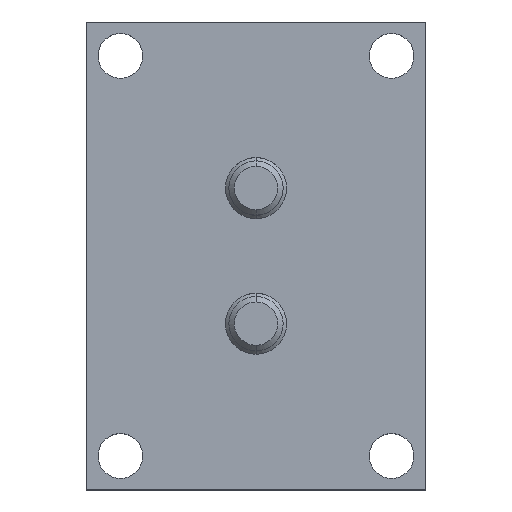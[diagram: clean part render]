
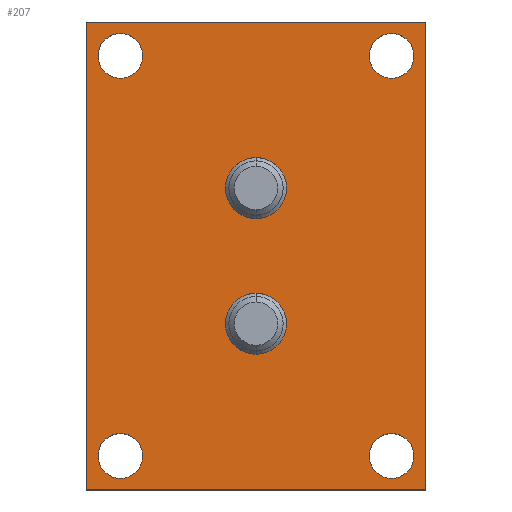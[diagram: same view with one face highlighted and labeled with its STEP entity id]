
A CAD part, top view. The second image highlights one B-rep face of the part: STEP entity #207.
In plain terms, the highlighted planar face has unit normal (0, 0, 1).
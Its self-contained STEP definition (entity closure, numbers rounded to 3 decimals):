
#101=FACE_BOUND('',#331,.T.);
#102=FACE_BOUND('',#332,.T.);
#103=FACE_BOUND('',#333,.T.);
#104=FACE_BOUND('',#334,.T.);
#105=FACE_BOUND('',#335,.T.);
#106=FACE_BOUND('',#336,.T.);
#107=FACE_BOUND('',#337,.T.);
#148=CIRCLE('',#975,3.3);
#150=CIRCLE('',#978,3.3);
#152=CIRCLE('',#981,3.3);
#154=CIRCLE('',#984,3.3);
#156=CIRCLE('',#987,3.3);
#158=CIRCLE('',#990,3.3);
#160=CIRCLE('',#993,3.3);
#162=CIRCLE('',#996,3.3);
#164=CIRCLE('',#999,4.5);
#166=CIRCLE('',#1002,4.5);
#169=CIRCLE('',#1008,4.5);
#170=CIRCLE('',#1009,4.5);
#207=ADVANCED_FACE('',(#101,#102,#103,#104,#105,#106,#107),#247,.T.);
#247=PLANE('',#1010);
#331=EDGE_LOOP('',(#445,#446,#447,#448));
#332=EDGE_LOOP('',(#449,#450));
#333=EDGE_LOOP('',(#451,#452));
#334=EDGE_LOOP('',(#453,#454));
#335=EDGE_LOOP('',(#455,#456));
#336=EDGE_LOOP('',(#457,#458));
#337=EDGE_LOOP('',(#459,#460));
#445=ORIENTED_EDGE('',*,*,#698,.T.);
#446=ORIENTED_EDGE('',*,*,#702,.T.);
#447=ORIENTED_EDGE('',*,*,#705,.T.);
#448=ORIENTED_EDGE('',*,*,#708,.T.);
#449=ORIENTED_EDGE('',*,*,#743,.F.);
#450=ORIENTED_EDGE('',*,*,#744,.F.);
#451=ORIENTED_EDGE('',*,*,#712,.T.);
#452=ORIENTED_EDGE('',*,*,#714,.T.);
#453=ORIENTED_EDGE('',*,*,#718,.T.);
#454=ORIENTED_EDGE('',*,*,#720,.T.);
#455=ORIENTED_EDGE('',*,*,#724,.T.);
#456=ORIENTED_EDGE('',*,*,#726,.T.);
#457=ORIENTED_EDGE('',*,*,#730,.T.);
#458=ORIENTED_EDGE('',*,*,#732,.T.);
#459=ORIENTED_EDGE('',*,*,#735,.T.);
#460=ORIENTED_EDGE('',*,*,#738,.T.);
#622=VERTEX_POINT('',#1339);
#623=VERTEX_POINT('',#1341);
#626=VERTEX_POINT('',#1348);
#628=VERTEX_POINT('',#1354);
#630=VERTEX_POINT('',#1363);
#632=VERTEX_POINT('',#1367);
#634=VERTEX_POINT('',#1375);
#636=VERTEX_POINT('',#1379);
#638=VERTEX_POINT('',#1387);
#640=VERTEX_POINT('',#1391);
#642=VERTEX_POINT('',#1399);
#644=VERTEX_POINT('',#1403);
#647=VERTEX_POINT('',#1413);
#648=VERTEX_POINT('',#1415);
#651=VERTEX_POINT('',#1430);
#652=VERTEX_POINT('',#1431);
#698=EDGE_CURVE('',#623,#622,#818,.T.);
#702=EDGE_CURVE('',#622,#626,#822,.T.);
#705=EDGE_CURVE('',#626,#628,#825,.T.);
#708=EDGE_CURVE('',#628,#623,#828,.T.);
#712=EDGE_CURVE('',#630,#632,#148,.T.);
#714=EDGE_CURVE('',#632,#630,#150,.T.);
#718=EDGE_CURVE('',#634,#636,#152,.T.);
#720=EDGE_CURVE('',#636,#634,#154,.T.);
#724=EDGE_CURVE('',#638,#640,#156,.T.);
#726=EDGE_CURVE('',#640,#638,#158,.T.);
#730=EDGE_CURVE('',#642,#644,#160,.T.);
#732=EDGE_CURVE('',#644,#642,#162,.T.);
#735=EDGE_CURVE('',#648,#647,#164,.T.);
#738=EDGE_CURVE('',#647,#648,#166,.T.);
#743=EDGE_CURVE('',#651,#652,#169,.T.);
#744=EDGE_CURVE('',#652,#651,#170,.T.);
#818=LINE('',#1340,#894);
#822=LINE('',#1349,#898);
#825=LINE('',#1355,#901);
#828=LINE('',#1359,#904);
#894=VECTOR('',#1069,1.);
#898=VECTOR('',#1075,1.);
#901=VECTOR('',#1080,1.);
#904=VECTOR('',#1085,1.);
#975=AXIS2_PLACEMENT_3D('',#1368,#1092,#1093);
#978=AXIS2_PLACEMENT_3D('',#1371,#1098,#1099);
#981=AXIS2_PLACEMENT_3D('',#1380,#1106,#1107);
#984=AXIS2_PLACEMENT_3D('',#1383,#1112,#1113);
#987=AXIS2_PLACEMENT_3D('',#1392,#1120,#1121);
#990=AXIS2_PLACEMENT_3D('',#1395,#1126,#1127);
#993=AXIS2_PLACEMENT_3D('',#1404,#1134,#1135);
#996=AXIS2_PLACEMENT_3D('',#1407,#1140,#1141);
#999=AXIS2_PLACEMENT_3D('',#1414,#1147,#1148);
#1002=AXIS2_PLACEMENT_3D('',#1419,#1154,#1155);
#1008=AXIS2_PLACEMENT_3D('',#1429,#1168,#1169);
#1009=AXIS2_PLACEMENT_3D('',#1432,#1170,#1171);
#1010=AXIS2_PLACEMENT_3D('',#1433,#1172,#1173);
#1069=DIRECTION('',(0.,-1.,0.));
#1075=DIRECTION('',(1.,0.,0.));
#1080=DIRECTION('',(0.,1.,0.));
#1085=DIRECTION('',(-1.,0.,0.));
#1092=DIRECTION('',(0.,0.,-1.));
#1093=DIRECTION('',(-1.,0.,0.));
#1098=DIRECTION('',(0.,0.,-1.));
#1099=DIRECTION('',(1.,0.,0.));
#1106=DIRECTION('',(0.,0.,-1.));
#1107=DIRECTION('',(-1.,0.,0.));
#1112=DIRECTION('',(0.,0.,-1.));
#1113=DIRECTION('',(1.,0.,0.));
#1120=DIRECTION('',(0.,0.,-1.));
#1121=DIRECTION('',(-1.,0.,0.));
#1126=DIRECTION('',(0.,0.,-1.));
#1127=DIRECTION('',(1.,0.,0.));
#1134=DIRECTION('',(0.,0.,-1.));
#1135=DIRECTION('',(-1.,0.,0.));
#1140=DIRECTION('',(0.,0.,-1.));
#1141=DIRECTION('',(1.,0.,0.));
#1147=DIRECTION('',(0.,0.,-1.));
#1148=DIRECTION('',(-1.,0.,0.));
#1154=DIRECTION('',(0.,0.,-1.));
#1155=DIRECTION('',(1.,0.,0.));
#1168=DIRECTION('',(0.,0.,1.));
#1169=DIRECTION('',(-1.,0.,0.));
#1170=DIRECTION('',(0.,0.,1.));
#1171=DIRECTION('',(1.,0.,0.));
#1172=DIRECTION('',(0.,0.,1.));
#1173=DIRECTION('',(-1.,0.,0.));
#1339=CARTESIAN_POINT('',(-25.,-34.5,9.));
#1340=CARTESIAN_POINT('',(-25.,34.5,9.));
#1341=CARTESIAN_POINT('',(-25.,34.5,9.));
#1348=CARTESIAN_POINT('',(25.,-34.5,9.));
#1349=CARTESIAN_POINT('',(-25.,-34.5,9.));
#1354=CARTESIAN_POINT('',(25.,34.5,9.));
#1355=CARTESIAN_POINT('',(25.,34.5,9.));
#1359=CARTESIAN_POINT('',(-25.,34.5,9.));
#1363=CARTESIAN_POINT('',(20.,32.8,9.));
#1367=CARTESIAN_POINT('',(20.,26.2,9.));
#1368=CARTESIAN_POINT('',(20.,29.5,9.));
#1371=CARTESIAN_POINT('',(20.,29.5,9.));
#1375=CARTESIAN_POINT('',(-20.,32.8,9.));
#1379=CARTESIAN_POINT('',(-20.,26.2,9.));
#1380=CARTESIAN_POINT('',(-20.,29.5,9.));
#1383=CARTESIAN_POINT('',(-20.,29.5,9.));
#1387=CARTESIAN_POINT('',(-20.,-26.2,9.));
#1391=CARTESIAN_POINT('',(-20.,-32.8,9.));
#1392=CARTESIAN_POINT('',(-20.,-29.5,9.));
#1395=CARTESIAN_POINT('',(-20.,-29.5,9.));
#1399=CARTESIAN_POINT('',(20.,-26.2,9.));
#1403=CARTESIAN_POINT('',(20.,-32.8,9.));
#1404=CARTESIAN_POINT('',(20.,-29.5,9.));
#1407=CARTESIAN_POINT('',(20.,-29.5,9.));
#1413=CARTESIAN_POINT('',(0.,5.5,9.));
#1414=CARTESIAN_POINT('',(0.,10.,9.));
#1415=CARTESIAN_POINT('',(0.,14.5,9.));
#1419=CARTESIAN_POINT('',(0.,10.,9.));
#1429=CARTESIAN_POINT('',(0.,-10.,9.));
#1430=CARTESIAN_POINT('',(0.,-14.5,9.));
#1431=CARTESIAN_POINT('',(0.,-5.5,9.));
#1432=CARTESIAN_POINT('',(0.,-10.,9.));
#1433=CARTESIAN_POINT('',(-25.,34.5,9.));
